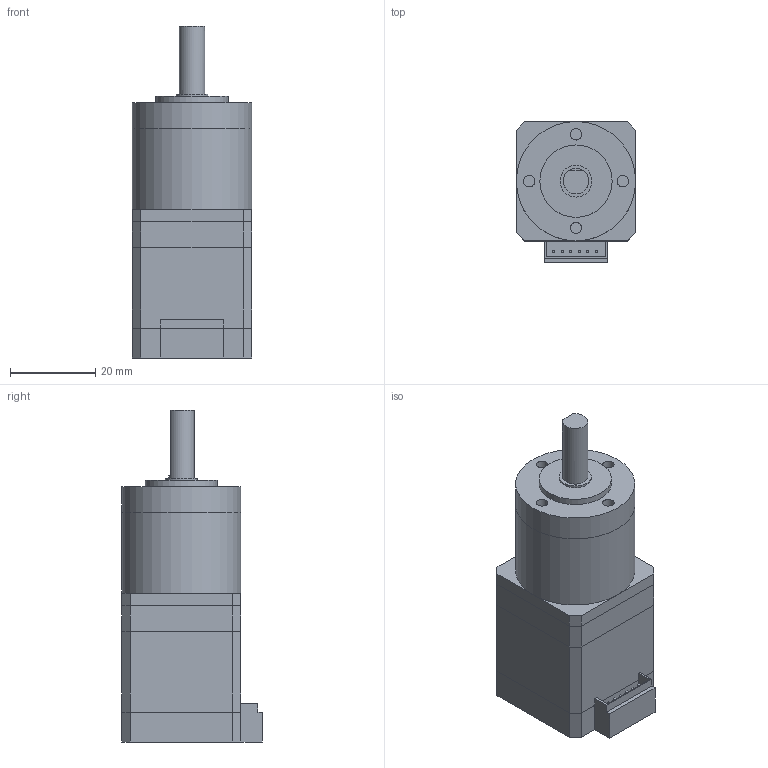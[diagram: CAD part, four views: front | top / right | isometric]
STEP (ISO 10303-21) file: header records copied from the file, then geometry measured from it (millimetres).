
FILE_DESCRIPTION(/* description */ (''),/* implementation_level */ '2;1');
FILE_NAME(/* name */ '28PG004-D07-0432.stp',/* time_stamp */ '2018-08-30T16:51:14+08:00',/* author */ (''),/* organization */ (''),/* preprocessor_version */ 'ST-DEVELOPER v11',/* originating_system */ 'SIEMENS UGS NX 6.0',/* authorisation */ '');
FILE_SCHEMA (('CONFIG_CONTROL_DESIGN'));
Length unit declared in the file: millimetre
Products named in the file (1): 28PG004-D07-0432
Bounding box: 28 x 33 x 78 mm (x, y, z)
Volume: 43555.2 mm3; surface area: 16213.2 mm2
Topology: 8 solids, 8 shells, 109 faces, 251 edges, 165 vertices
Faces by surface type: plane 95, cylinder 10, cone 4
Full cylindrical faces by diameter (mm): 2.7 x4, 6 x2, 7.5 x1, 17 x1, 28 x2
Entity records: 3038 total; most frequent: CARTESIAN_POINT 508, DIRECTION 480, ORIENTED_EDGE 470, EDGE_CURVE 235, LINE 210, VECTOR 210, VERTEX_POINT 163, EDGE_LOOP 140
